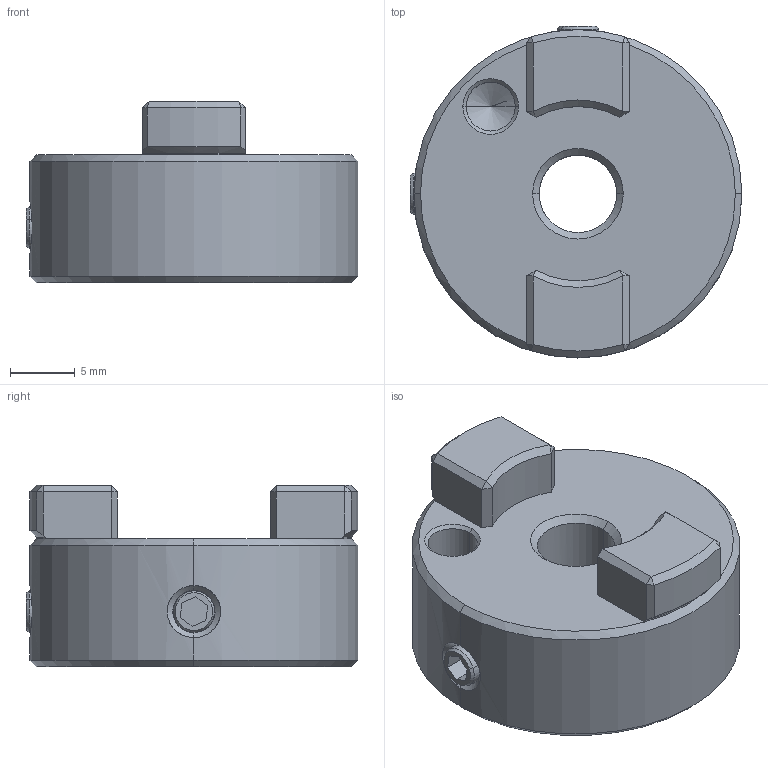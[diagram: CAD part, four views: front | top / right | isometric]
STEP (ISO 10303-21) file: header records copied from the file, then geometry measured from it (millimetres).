
FILE_DESCRIPTION((''),'2;1');
FILE_NAME('MOST25-6-A','2016-09-09T',('SYSTEM'),(''),'PRO/ENGINEER BY PARAMETRIC TECHNOLOGY CORPORATION, 2015110','PRO/ENGINEER BY PARAMETRIC TECHNOLOGY CORPORATION, 2015110','');
FILE_SCHEMA(('AUTOMOTIVE_DESIGN { 1 0 10303 214 1 1 1 1 }'));
Length unit declared in the file: inch
Products named in the file (1): MOST25-6-A
Bounding box: 25.7 x 25.7 x 14.05 mm (x, y, z)
Volume: 139.8 mm3; surface area: 2628.7 mm2
Topology: 2 solids, 3 shells, 96 faces, 222 edges, 131 vertices
Faces by surface type: plane 46, cone 26, cylinder 20, bspline 4
Entity records: 3737 total; most frequent: CARTESIAN_POINT 881, DIRECTION 434, ORIENTED_EDGE 428, EDGE_CURVE 220, AXIS2_PLACEMENT_3D 149, VECTOR 136, LINE 136, VERTEX_POINT 131
